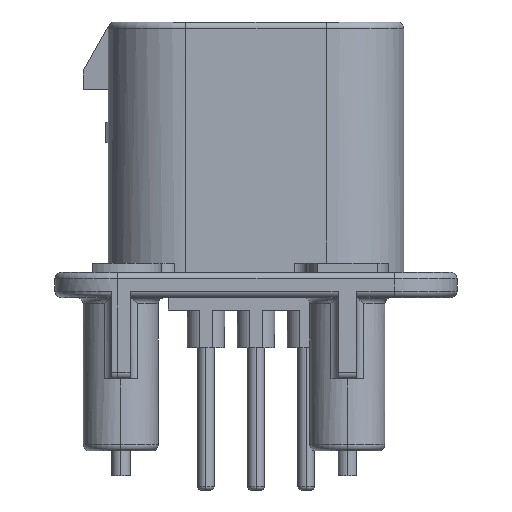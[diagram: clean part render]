
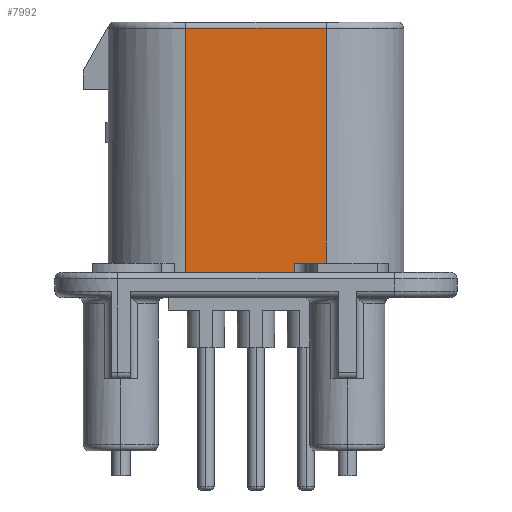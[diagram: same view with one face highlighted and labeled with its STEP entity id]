
A CAD part, left-side view. The second image highlights one B-rep face of the part: STEP entity #7992.
In plain terms, the highlighted planar face has unit normal (-1, 0, 0).
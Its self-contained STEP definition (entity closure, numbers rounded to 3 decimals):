
#491=DIRECTION('',(0.,-1.,0.));
#492=VECTOR('',#491,8.65);
#493=CARTESIAN_POINT('',(-15.7,5.6,-20.));
#494=LINE('',#493,#492);
#1069=DIRECTION('',(0.,-1.,0.));
#1070=VECTOR('',#1069,11.2);
#1071=CARTESIAN_POINT('',(-15.7,5.6,-0.5));
#1072=LINE('',#1071,#1070);
#1315=DIRECTION('',(0.,-1.,0.));
#1316=VECTOR('',#1315,2.55);
#1317=CARTESIAN_POINT('',(-15.7,-3.05,-19.25));
#1318=LINE('',#1317,#1316);
#1319=DIRECTION('',(0.,0.,1.));
#1320=VECTOR('',#1319,0.75);
#1321=CARTESIAN_POINT('',(-15.7,-3.05,-20.));
#1322=LINE('',#1321,#1320);
#1323=DIRECTION('',(0.,0.,1.));
#1324=VECTOR('',#1323,19.5);
#1325=CARTESIAN_POINT('',(-15.7,5.6,-20.));
#1326=LINE('',#1325,#1324);
#1327=DIRECTION('',(0.,0.,1.));
#1328=VECTOR('',#1327,18.75);
#1329=CARTESIAN_POINT('',(-15.7,-5.6,-19.25));
#1330=LINE('',#1329,#1328);
#5779=CARTESIAN_POINT('',(-15.7,5.6,-0.5));
#5781=VERTEX_POINT('',#5779);
#5784=CARTESIAN_POINT('',(-15.7,-5.6,-0.5));
#5785=VERTEX_POINT('',#5784);
#5794=CARTESIAN_POINT('',(-15.7,5.6,-20.));
#5795=VERTEX_POINT('',#5794);
#6027=CARTESIAN_POINT('',(-15.7,-3.05,-20.));
#6029=VERTEX_POINT('',#6027);
#6040=CARTESIAN_POINT('',(-15.7,-3.05,-19.25));
#6041=CARTESIAN_POINT('',(-15.7,-5.6,-19.25));
#6042=VERTEX_POINT('',#6040);
#6043=VERTEX_POINT('',#6041);
#7977=CARTESIAN_POINT('',(-15.7,5.6,-20.));
#7978=DIRECTION('',(-1.,0.,0.));
#7979=DIRECTION('',(0.,-1.,0.));
#7980=AXIS2_PLACEMENT_3D('',#7977,#7978,#7979);
#7981=PLANE('',#7980);
#7982=ORIENTED_EDGE('',*,*,#7769,.T.);
#7984=ORIENTED_EDGE('',*,*,#7983,.F.);
#7985=ORIENTED_EDGE('',*,*,#7872,.F.);
#7987=ORIENTED_EDGE('',*,*,#7986,.F.);
#7988=ORIENTED_EDGE('',*,*,#7189,.F.);
#7989=ORIENTED_EDGE('',*,*,#7737,.T.);
#7990=EDGE_LOOP('',(#7982,#7984,#7985,#7987,#7988,#7989));
#7991=FACE_OUTER_BOUND('',#7990,.F.);
#7992=ADVANCED_FACE('',(#7991),#7981,.T.);
#7189=EDGE_CURVE('',#5795,#6029,#494,.T.);
#7737=EDGE_CURVE('',#5795,#5781,#1326,.T.);
#7769=EDGE_CURVE('',#5781,#5785,#1072,.T.);
#7872=EDGE_CURVE('',#6042,#6043,#1318,.T.);
#7983=EDGE_CURVE('',#6043,#5785,#1330,.T.);
#7986=EDGE_CURVE('',#6029,#6042,#1322,.T.);
